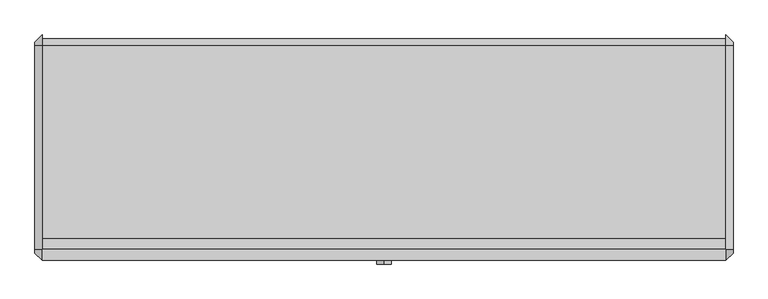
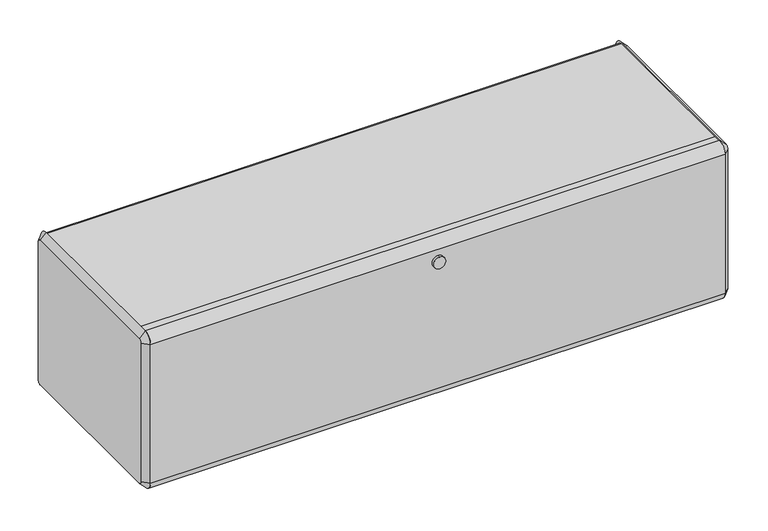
"""IFC4 building model written with IfcOpenShell, lengths in millimetres: furniture geometry."""

from ifc_helpers import new_model, si_unit, point, frame, frame_2d, origin, place, context, project, spatial, polyline, circle_curve, trimmed, segment, composite_curve, outline, extrude, source, transform, mapped, element, save
from ifc_brep_helpers import plane_surface, revolved_surface, advanced_brep


def furniture_fd0ec5e4(model_context):
    return source(origin(), model_context, "Body", "SolidModel", [
        extrude(outline(polyline([(596.9, -146.0499879), (596.9, -165.1), (-596.9, -165.1), (-596.9, -146.0499879), (596.9, -146.0499879)])), frame((0.0, 0.0, 870.93044), z_axis=(0.0, 0.0, 1.0), x_axis=(1.0, 0.0, 0.0)), (0.0, 0.0, 1.0), 9.525),
        extrude(outline(polyline([(596.9, 190.5), (596.9, -165.1), (-596.9, -165.1), (-596.9, 190.5), (596.9, 190.5)])), frame((0.0, 0.0, 540.73044), z_axis=(0.0, 0.0, 1.0), x_axis=(1.0, 0.0, 0.0)), (0.0, 0.0, 1.0), 3.175),
        extrude(outline(composite_curve([segment(polyline([(-165.1, 880.45544), (190.5, 880.45544)]), True, "CONTINUOUS"), segment(trimmed(circle_curve(frame_2d((187.8607088, 865.3265071)), 15.3574239), [point((190.5, 880.45544))], [point((203.2, 864.58044))], False, "CARTESIAN"), True, "CONTINUOUS"), segment(polyline([(203.2, 864.58044), (135.861887, 864.58044)]), True, "CONTINUOUS"), segment(trimmed(circle_curve(frame_2d((210.5330586, 752.2088208)), 134.9191042), [point((135.861887, 864.58044))], [point((190.5, 618.78528))], True, "CARTESIAN"), True, "CONTINUOUS"), segment(polyline([(190.5, 618.78528), (-165.1, 618.78528), (-165.1, 880.45544)]), True, "CONTINUOUS")], self_intersect=False)), frame((-596.9, 0.0, 0.0), z_axis=(1.0, 0.0, 0.0), x_axis=(0.0, 1.0, 0.0)), (0.0, 0.0, 1.0), 1193.8),
        extrude(outline(composite_curve([segment(trimmed(circle_curve(frame_2d((-165.1, 864.58044)), 19.05), [point((-184.15, 864.58044))], [point((-165.1, 883.63044))], False, "CARTESIAN"), True, "CONTINUOUS"), segment(polyline([(-165.1, 883.63044), (-165.1, 870.93044)]), True, "CONTINUOUS"), segment(trimmed(circle_curve(frame_2d((-165.1, 864.58044)), 6.35), [point((-165.1, 870.93044))], [point((-171.45, 864.58044))], True, "CARTESIAN"), True, "CONTINUOUS"), segment(polyline([(-171.45, 864.58044), (-171.45, 559.78044)]), True, "CONTINUOUS"), segment(trimmed(circle_curve(frame_2d((-165.1, 559.78044)), 6.35), [point((-171.45, 559.78044))], [point((-165.1, 553.43044))], True, "CARTESIAN"), True, "CONTINUOUS"), segment(polyline([(-165.1, 553.43044), (-165.1, 540.73044)]), True, "CONTINUOUS"), segment(trimmed(circle_curve(frame_2d((-165.1, 559.78044)), 19.05), [point((-165.1, 540.73044))], [point((-184.15, 559.78044))], False, "CARTESIAN"), True, "CONTINUOUS"), segment(polyline([(-184.15, 559.78044), (-184.15, 864.58044)]), True, "CONTINUOUS")], self_intersect=False)), frame((-596.9, 0.0, 0.0), z_axis=(1.0, 0.0, 0.0), x_axis=(0.0, 1.0, 0.0)), (0.0, 0.0, 1.0), 1193.8),
        extrude(outline(composite_curve([segment(trimmed(circle_curve(frame_2d((839.1307224, 0.0)), 12.713771), [point((826.4169514, 0.0))], [point((851.8444935, 0.0))], False, "CARTESIAN"), True, "CONTINUOUS"), segment(trimmed(circle_curve(frame_2d((839.1307224, 0.0)), 12.713771), [point((851.8444935, 0.0))], [point((826.4169514, 0.0))], False, "CARTESIAN"), True, "CONTINUOUS")], self_intersect=False)), frame((0.0, -190.5, 0.0), z_axis=(0.0, 1.0, 0.0), x_axis=(0.0, 0.0, 1.0)), (0.0, 0.0, 1.0), 6.35),
        advanced_brep(
        [(609.6, 190.5, 870.93044), (609.6, -165.1, 870.93044), (609.6, -171.45, 864.58044), (609.6, -171.45, 559.78044), (609.6, -165.1, 553.43044), (609.6, 190.5, 553.43044), (609.6, 196.85, 559.78044), (609.6, 196.85, 864.58044), (596.9, 190.5, 883.63044), (596.9, 209.55, 864.58044), (596.9, 209.55, 559.78044), (596.9, 190.5, 540.73044), (596.9, -165.1, 540.73044), (596.9, -184.15, 559.78044), (596.9, -184.15, 864.58044), (596.9, -165.1, 883.63044)],
        [
            (0, 1),
            (1, 2, circle_curve(frame((609.6, -165.1, 864.58044), z_axis=(1.0, 1.1723955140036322e-12, -1.2576606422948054e-12), x_axis=(1.2576440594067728e-12, 0.0, 1.0)), 6.35)),
            (2, 3),
            (3, 4, circle_curve(frame((609.6, -165.1, 559.78044), z_axis=(1.0, -2.731148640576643e-12, -2.7391422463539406e-12), x_axis=(-2.7311758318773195e-12, -1.0, 0.0)), 6.35)),
            (4, 5),
            (5, 6, circle_curve(frame((609.6, 190.5, 559.78044), z_axis=(1.0, -3.4852121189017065e-12, 3.47455397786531e-12), x_axis=(3.4746146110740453e-12, 0.0, -1.0)), 6.35)),
            (6, 7),
            (7, 0, circle_curve(frame((609.6, 190.5, 864.58044), z_axis=(1.0, 1.169730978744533e-12, 1.0658141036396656e-12), x_axis=(-1.1697188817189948e-12, 1.0, 0.0)), 6.35)),
            (8, 9, circle_curve(frame((596.9, 190.5, 864.58044), z_axis=(-1.0, -1.169730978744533e-12, -1.0658141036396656e-12), x_axis=(-1.1697188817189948e-12, 1.0, 0.0)), 19.05)),
            (9, 10),
            (10, 11, circle_curve(frame((596.9, 190.5, 559.78044), z_axis=(-1.0, 3.4852121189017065e-12, -3.47455397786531e-12), x_axis=(3.4746146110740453e-12, 0.0, -1.0)), 19.05)),
            (11, 12),
            (12, 13, circle_curve(frame((596.9, -165.1, 559.78044), z_axis=(-1.0, 2.731148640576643e-12, 2.7391422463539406e-12), x_axis=(-2.7311758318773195e-12, -1.0, 0.0)), 19.05)),
            (13, 14),
            (14, 15, circle_curve(frame((596.9, -165.1, 864.58044), z_axis=(-1.0, -1.1723955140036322e-12, 1.2576606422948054e-12), x_axis=(1.2576440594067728e-12, 0.0, 1.0)), 19.05)),
            (15, 8),
            (15, 1),
            (0, 8),
            (14, 2),
            (13, 3),
            (12, 4),
            (11, 5),
            (10, 6),
            (9, 7),
        ],
        [
            plane_surface(frame((609.6, 12.7, 712.18044), z_axis=(1.0, 0.0, 0.0), x_axis=(0.0, -1.0, 0.0))),
            plane_surface(frame((596.9, 12.7, 712.18044), z_axis=(-1.0, 0.0, 0.0), x_axis=(0.0, -1.0, 0.0))),
            plane_surface(frame((596.9, 12.7, 883.63044), z_axis=(0.7071067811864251, 0.0, 0.70710678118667), x_axis=(0.0, -1.0, 0.0))),
            revolved_surface(polyline([(609.600000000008, -165.1, 870.930439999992), (596.9, -165.1, 883.63044)]), (615.95, -165.1, 864.58044), (-1.0, -1.1723955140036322e-12, 1.2576606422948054e-12)),
            plane_surface(frame((596.9, -184.15, 712.18044), z_axis=(0.7071067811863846, -0.7071067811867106, 0.0), x_axis=(0.0, 0.0, -1.0))),
            revolved_surface(polyline([(609.6, -171.44999999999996, 559.78044), (596.8999999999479, -184.15000000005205, 559.78044)]), (615.95, -165.1, 559.78044), (-1.0, 2.731148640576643e-12, 2.7391422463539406e-12)),
            plane_surface(frame((596.9, 12.7, 540.73044), z_axis=(0.707106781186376, 0.0, -0.707106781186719), x_axis=(0.0, 1.0, 0.0))),
            revolved_surface(polyline([(609.6000000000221, 190.5, 553.430440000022), (596.8999999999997, 190.5, 540.7304399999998)]), (615.95, 190.5, 559.78044), (-1.0, 3.4852121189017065e-12, -3.47455397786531e-12)),
            plane_surface(frame((596.9, 209.55, 712.18044), z_axis=(0.7071067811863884, 0.7071067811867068, 0.0), x_axis=(0.0, 0.0, 1.0))),
            revolved_surface(polyline([(609.6, 196.85, 864.58044), (596.8999999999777, 209.5500000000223, 864.58044)]), (615.95, 190.5, 864.58044), (-1.0, -1.169730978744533e-12, -1.0658141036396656e-12)),
        ],
        [
            (0, [[1, 2, 3, 4, 5, 6, 7, 8]]),
            (1, [[9, 10, 11, 12, 13, 14, 15, 16]]),
            (2, [[-16, 17, -1, 18]]),
            (3, [[-15, 19, -2, -17]]),
            (4, [[-14, 20, -3, -19]]),
            (5, [[-13, 21, -4, -20]]),
            (6, [[-12, 22, -5, -21]]),
            (7, [[-11, 23, -6, -22]]),
            (8, [[-10, 24, -7, -23]]),
            (9, [[-9, -18, -8, -24]]),
        ],
    ),
        advanced_brep(
        [(-609.6, -165.1, 870.93044), (-609.6, 190.5, 870.93044), (-609.6, 196.85, 864.58044), (-609.6, 196.85, 559.78044), (-609.6, 190.5, 553.43044), (-609.6, -165.1, 553.43044), (-609.6, -171.45, 559.78044), (-609.6, -171.45, 864.58044), (-596.9, -165.1, 883.63044), (-596.9, -184.15, 864.58044), (-596.9, -184.15, 559.78044), (-596.9, -165.1, 540.73044), (-596.9, 190.5, 540.73044), (-596.9, 209.55, 559.78044), (-596.9, 209.55, 864.58044), (-596.9, 190.5, 883.63044)],
        [
            (0, 1),
            (1, 2, circle_curve(frame((-609.6, 190.5, 864.58044), z_axis=(-1.0, -1.945110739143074e-12, -1.8651746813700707e-12), x_axis=(-1.8651128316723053e-12, 0.0, 1.0)), 6.35)),
            (2, 3),
            (3, 4, circle_curve(frame((-609.6, 190.5, 559.78044), z_axis=(-1.0, 0.0, 0.0), x_axis=(0.0, 1.0, 0.0)), 6.35)),
            (4, 5),
            (5, 6, circle_curve(frame((-609.6, -165.1, 559.78044), z_axis=(-1.0, 0.0, 0.0), x_axis=(0.0, 0.0, -1.0)), 6.35)),
            (6, 7),
            (7, 0, circle_curve(frame((-609.6, -165.1, 864.58044), z_axis=(-1.0, -1.9397816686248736e-12, 2.0250467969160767e-12), x_axis=(1.9398492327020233e-12, -1.0, 0.0)), 6.35)),
            (8, 9, circle_curve(frame((-596.9, -165.1, 864.58044), z_axis=(1.0, 1.9397816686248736e-12, -2.0250467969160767e-12), x_axis=(1.9398492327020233e-12, -1.0, 0.0)), 19.05)),
            (9, 10),
            (10, 11, circle_curve(frame((-596.9, -165.1, 559.78044), z_axis=(1.0, 0.0, 0.0), x_axis=(0.0, 0.0, -1.0)), 19.05)),
            (11, 12),
            (12, 13, circle_curve(frame((-596.9, 190.5, 559.78044), z_axis=(1.0, 0.0, 0.0), x_axis=(0.0, 1.0, 0.0)), 19.05)),
            (13, 14),
            (14, 15, circle_curve(frame((-596.9, 190.5, 864.58044), z_axis=(1.0, 1.945110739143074e-12, 1.8651746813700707e-12), x_axis=(-1.8651128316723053e-12, 0.0, 1.0)), 19.05)),
            (15, 8),
            (15, 1),
            (0, 8),
            (14, 2),
            (13, 3),
            (12, 4),
            (11, 5),
            (10, 6),
            (9, 7),
        ],
        [
            plane_surface(frame((-609.6, 12.7, 712.18044), z_axis=(-1.0, 0.0, 0.0), x_axis=(0.0, -1.0, 0.0))),
            plane_surface(frame((-596.9, 12.7, 712.18044), z_axis=(1.0, 0.0, 0.0), x_axis=(0.0, -1.0, 0.0))),
            plane_surface(frame((-596.9, 12.7, 883.63044), z_axis=(-0.707106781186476, 0.0, 0.7071067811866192), x_axis=(0.0, 1.0, 0.0))),
            revolved_surface(polyline([(-609.6000000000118, 190.5, 870.9304399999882), (-596.8999999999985, 190.5, 883.6304400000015)]), (-615.95, 190.5, 864.58044), (1.0, 1.945110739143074e-12, 1.8651746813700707e-12)),
            plane_surface(frame((-596.9, 209.55, 712.18044), z_axis=(-0.7071067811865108, 0.7071067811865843, 0.0), x_axis=(0.0, 0.0, -1.0))),
            revolved_surface(polyline([(-609.6, 196.85, 559.78044), (-596.9, 209.55, 559.78044)]), (-615.95, 190.5, 559.78044), (1.0, 0.0, 0.0)),
            plane_surface(frame((-596.9, 12.7, 540.73044), z_axis=(-0.7071067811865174, 0.0, -0.7071067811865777), x_axis=(0.0, -1.0, 0.0))),
            revolved_surface(polyline([(-609.6, -165.1, 553.43044), (-596.9, -165.1, 540.73044)]), (-615.95, -165.1, 559.78044), (1.0, 0.0, 0.0)),
            plane_surface(frame((-596.9, -184.15, 712.18044), z_axis=(-0.7071067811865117, -0.7071067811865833, 0.0), x_axis=(0.0, 0.0, 1.0))),
            revolved_surface(polyline([(-609.6000000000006, -171.44999999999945, 864.58044), (-596.899999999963, -184.15000000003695, 864.58044)]), (-615.95, -165.1, 864.58044), (1.0, 1.9397816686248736e-12, -2.0250467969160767e-12)),
        ],
        [
            (0, [[1, 2, 3, 4, 5, 6, 7, 8]]),
            (1, [[9, 10, 11, 12, 13, 14, 15, 16]]),
            (2, [[-16, 17, -1, 18]]),
            (3, [[-15, 19, -2, -17]]),
            (4, [[-14, 20, -3, -19]]),
            (5, [[-13, 21, -4, -20]]),
            (6, [[-12, 22, -5, -21]]),
            (7, [[-11, 23, -6, -22]]),
            (8, [[-10, 24, -7, -23]]),
            (9, [[-9, -18, -8, -24]]),
        ],
    ),
    ])


if __name__ == "__main__":
    model = new_model("IFC4")
    model_context = context("Model", 3, world=origin())
    ifc_project = project(units=[si_unit("LENGTHUNIT", "METRE", prefix="MILLI")], contexts=[model_context])
    site = spatial("IfcSite", under=ifc_project)
    building = spatial("IfcBuilding", under=site)
    placement = place(None, origin())
    furniture_shape = furniture_fd0ec5e4(model_context)
    element("IfcFurniture", 1, ObjectType="HermanMiller_ActionOffice_A3121_B-StyleSuspendedLateralFile : 16\"D x 48\"W", at=placement, inside=building, context=model_context, shape_type="MappedRepresentation", body=[
        mapped(furniture_shape, transform((0.0, 0.0, 0.0), x_axis=(1.0, 0.0, 0.0), y_axis=(0.0, 1.0, 0.0), z_axis=(0.0, 0.0, 1.0))),
    ])
    save(model, "model.ifc")
